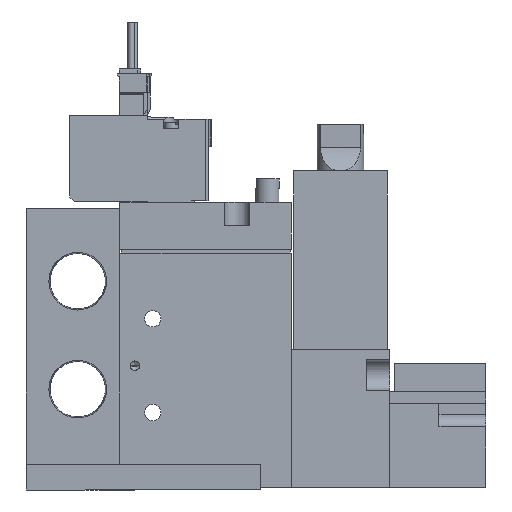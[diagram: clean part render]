
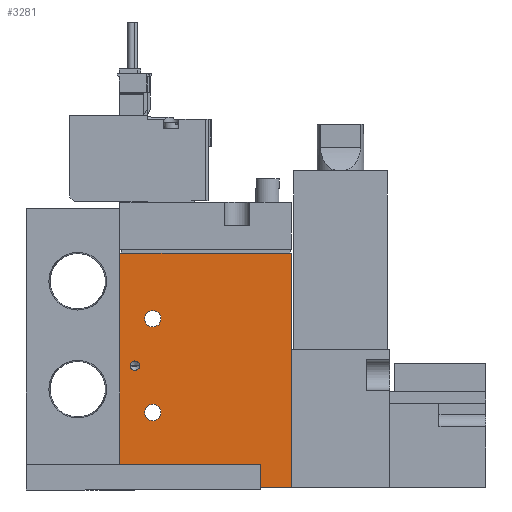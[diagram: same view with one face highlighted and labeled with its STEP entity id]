
A CAD part, left-side view. The second image highlights one B-rep face of the part: STEP entity #3281.
In plain terms, the highlighted planar face has unit normal (-1, 0, 0) as drawn and (1, 0, 0) by its records, which use the part's own axes.
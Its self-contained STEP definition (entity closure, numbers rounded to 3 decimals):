
#3281=ADVANCED_FACE('',(#5090,#5091,#5092,#5093),#5094,.F.);
#5090=FACE_BOUND('',#8462,.T.);
#5091=FACE_BOUND('',#8463,.T.);
#5092=FACE_BOUND('',#8464,.T.);
#5093=FACE_OUTER_BOUND('',#8465,.T.);
#5094=PLANE('',#8466);
#8462=EDGE_LOOP('',(#12965));
#8463=EDGE_LOOP('',(#12966));
#8464=EDGE_LOOP('',(#12967));
#8465=EDGE_LOOP('',(#12968,#12969,#12970,#12971));
#8466=AXIS2_PLACEMENT_3D('',#12972,#12973,#12974);
#12965=ORIENTED_EDGE('',*,*,#23526,.F.);
#12966=ORIENTED_EDGE('',*,*,#23527,.T.);
#12967=ORIENTED_EDGE('',*,*,#23528,.T.);
#12968=ORIENTED_EDGE('',*,*,#23520,.T.);
#12969=ORIENTED_EDGE('',*,*,#23517,.F.);
#12970=ORIENTED_EDGE('',*,*,#23521,.F.);
#12971=ORIENTED_EDGE('',*,*,#23513,.T.);
#12972=CARTESIAN_POINT('',(8.5,-19.444,50.0));
#12973=DIRECTION('',(-1.0,0.0,0.0));
#12974=DIRECTION('',(0.0,0.0,1.0));
#23513=EDGE_CURVE('',#27505,#27503,#27506,.T.);
#23517=EDGE_CURVE('',#27510,#27508,#27512,.T.);
#23520=EDGE_CURVE('',#27503,#27508,#27517,.T.);
#23521=EDGE_CURVE('',#27505,#27510,#27518,.T.);
#23526=EDGE_CURVE('',#27525,#27525,#27526,.T.);
#23527=EDGE_CURVE('',#27527,#27527,#27528,.T.);
#23528=EDGE_CURVE('',#27529,#27529,#27530,.T.);
#27503=VERTEX_POINT('',#34228);
#27505=VERTEX_POINT('',#34231);
#27506=LINE('',#34232,#34233);
#27508=VERTEX_POINT('',#34236);
#27510=VERTEX_POINT('',#34239);
#27512=LINE('',#34242,#34243);
#27517=LINE('',#34248,#34249);
#27518=LINE('',#34250,#34251);
#27525=VERTEX_POINT('',#34258);
#27526=CIRCLE('',#34259,1.0);
#27527=VERTEX_POINT('',#34260);
#27528=CIRCLE('',#34261,1.75);
#27529=VERTEX_POINT('',#34262);
#27530=CIRCLE('',#34263,1.75);
#34228=CARTESIAN_POINT('',(8.5,-19.444,0.0));
#34231=CARTESIAN_POINT('',(8.5,-19.444,50.0));
#34232=CARTESIAN_POINT('',(8.5,-19.444,50.0));
#34233=VECTOR('',#42920,1.0);
#34236=CARTESIAN_POINT('',(8.5,17.056,0.0));
#34239=CARTESIAN_POINT('',(8.5,17.056,50.0));
#34242=CARTESIAN_POINT('',(8.5,17.056,50.0));
#34243=VECTOR('',#42924,1.0);
#34248=CARTESIAN_POINT('',(8.5,-19.444,0.0));
#34249=VECTOR('',#42931,1.0);
#34250=CARTESIAN_POINT('',(8.5,-19.444,50.0));
#34251=VECTOR('',#42932,1.0);
#34258=CARTESIAN_POINT('',(8.5,-17.244,26.0));
#34259=AXIS2_PLACEMENT_3D('',#42942,#42943,#42944);
#34260=CARTESIAN_POINT('',(8.5,-10.694,36.0));
#34261=AXIS2_PLACEMENT_3D('',#42945,#42946,#42947);
#34262=CARTESIAN_POINT('',(8.5,-10.694,16.0));
#34263=AXIS2_PLACEMENT_3D('',#42948,#42949,#42950);
#42920=DIRECTION('',(0.0,0.0,-1.0));
#42924=DIRECTION('',(0.0,0.0,-1.0));
#42931=DIRECTION('',(0.0,1.0,0.0));
#42932=DIRECTION('',(0.0,1.0,0.0));
#42942=CARTESIAN_POINT('',(8.5,-16.244,26.0));
#42943=DIRECTION('',(1.0,0.,0.0));
#42944=DIRECTION('',(0.,-1.0,0.0));
#42945=CARTESIAN_POINT('',(8.5,-12.444,36.0));
#42946=DIRECTION('',(-1.0,0.0,0.0));
#42947=DIRECTION('',(0.0,1.0,0.0));
#42948=CARTESIAN_POINT('',(8.5,-12.444,16.0));
#42949=DIRECTION('',(-1.0,0.0,0.0));
#42950=DIRECTION('',(0.0,1.0,0.0));
